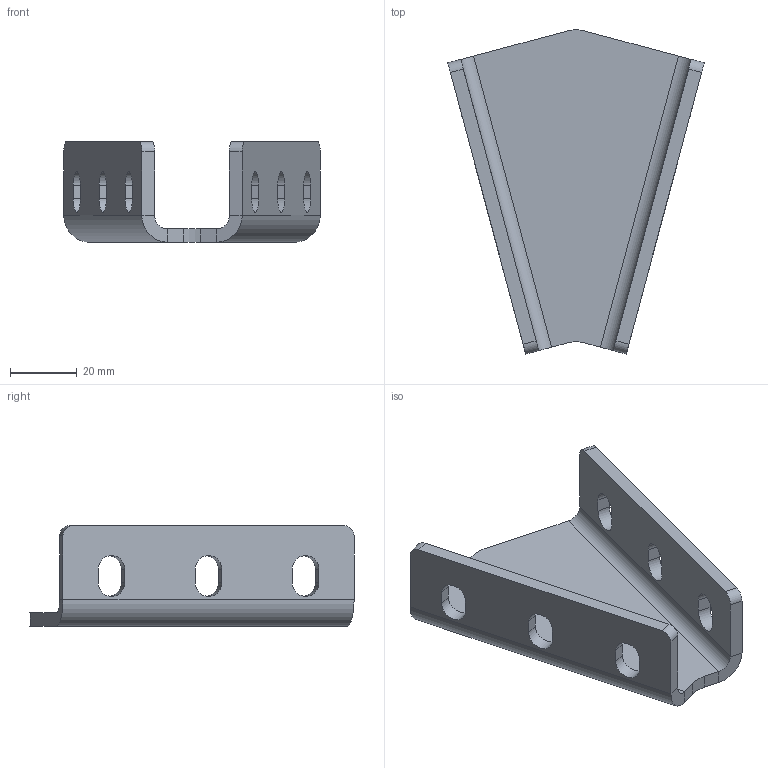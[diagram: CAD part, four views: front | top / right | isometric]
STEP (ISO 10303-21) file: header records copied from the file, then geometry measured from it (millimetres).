
FILE_DESCRIPTION (( 'STEP AP214' ), '1' );
FILE_NAME ('309030.STEP', '2019-11-01T07:25:12', ( '' ), ( '' ), 'SwSTEP 2.0', 'SolidWorks 2014', '' );
FILE_SCHEMA (( 'AUTOMOTIVE_DESIGN' ));
Length unit declared in the file: millimetre
Products named in the file (2): 309030
Bounding box: 76.59 x 96.8 x 30 mm (x, y, z)
Volume: 34642.8 mm3; surface area: 19646.3 mm2
Topology: 1 solids, 1 shells, 54 faces, 140 edges, 88 vertices
Faces by surface type: plane 32, cylinder 22
Entity records: 1713 total; most frequent: DIRECTION 296, CARTESIAN_POINT 284, ORIENTED_EDGE 280, EDGE_CURVE 140, AXIS2_PLACEMENT_3D 100, LINE 96, VECTOR 96, VERTEX_POINT 88
